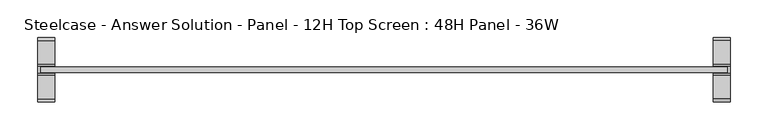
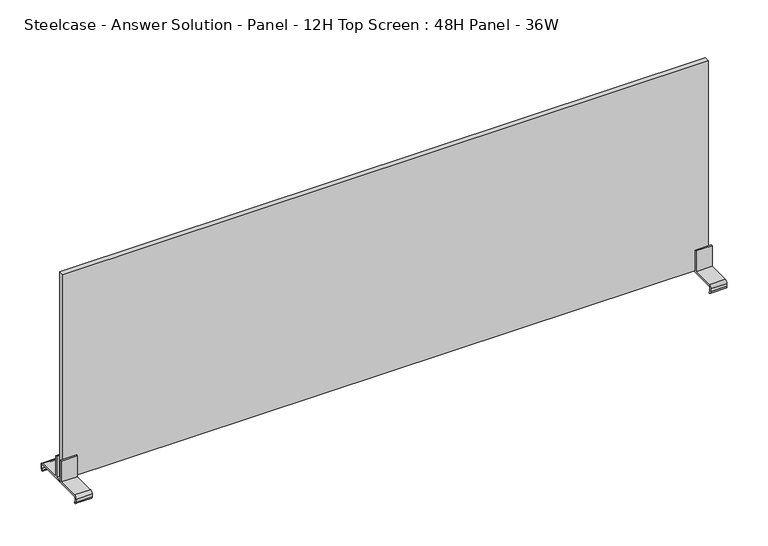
"""IFC4 building model written with IfcOpenShell, lengths in millimetres: furniture geometry, Steelcase - Answer Solution - Panel - 12H Top Screen : 48H Panel - 36W."""

from ifc_helpers import new_model, si_unit, point, frame, frame_2d, origin, place, context, project, spatial, polyline, circle_curve, trimmed, segment, composite_curve, outline, extrude, source, transform, mapped, element, save


def steelcase_answer_solution_panel_12h_top_screen_48h_panel_36w_2013941f(model_context):
    return source(origin(), model_context, "Body", "SweptSolid", [
        extrude(outline(polyline([(453.136, -3.683001), (-453.136, -3.683001), (-453.136, 3.683001), (453.136, 3.683001), (453.136, -3.683001)])), frame((0.0, 0.0, 1227.5819981), z_axis=(0.0, 0.0, 1.0), x_axis=(1.0, 0.0, 0.0)), (0.0, 0.0, 1.0), 304.8),
        extrude(outline(composite_curve([segment(trimmed(circle_curve(frame_2d((38.5445, 1223.645)), 1.905), [point((40.4495, 1223.645))], [point((38.5445, 1225.55))], True, "CARTESIAN"), True, "CONTINUOUS"), segment(polyline([(38.5445, 1225.55), (-38.5445, 1225.55)]), True, "CONTINUOUS"), segment(trimmed(circle_curve(frame_2d((-38.5445, 1223.645)), 1.905), [point((-38.5445, 1225.55))], [point((-40.4495, 1223.645))], True, "CARTESIAN"), True, "CONTINUOUS"), segment(polyline([(-40.4495, 1223.645), (-40.4495, 1219.0341187)]), True, "CONTINUOUS"), segment(trimmed(circle_curve(frame_2d((-38.5445, 1219.0341187)), 1.905), [point((-40.4495, 1219.0341187))], [point((-38.6743328, 1217.1335481))], True, "CARTESIAN"), True, "CONTINUOUS"), segment(polyline([(-38.6743328, 1217.1335481), (-39.2392449, 1215.5535566)]), True, "CONTINUOUS"), segment(trimmed(circle_curve(frame_2d((-38.5459934, 1219.4284569)), 3.9364261), [point((-39.2392449, 1215.5535566))], [point((-42.4824195, 1219.4284569))], False, "CARTESIAN"), True, "CONTINUOUS"), segment(polyline([(-42.4824195, 1219.4284569), (-42.4824195, 1223.6452288)]), True, "CONTINUOUS"), segment(trimmed(circle_curve(frame_2d((-38.5459934, 1223.6452288)), 3.9364261), [point((-42.4824195, 1223.6452288))], [point((-38.5459934, 1227.5816549))], False, "CARTESIAN"), True, "CONTINUOUS"), segment(polyline([(-38.5459934, 1227.5816549), (-6.7310004, 1227.5816549), (-6.7310004, 1258.5699952), (-4.699, 1258.5699952), (-4.699, 1227.5819952), (4.699, 1227.5819952), (4.699, 1258.5700048), (6.7310004, 1258.5700048), (6.7310004, 1227.5816549), (38.5459934, 1227.5816549)]), True, "CONTINUOUS"), segment(trimmed(circle_curve(frame_2d((38.5459934, 1223.6452288)), 3.9364261), [point((38.5459934, 1227.5816549))], [point((42.4824195, 1223.6452288))], False, "CARTESIAN"), True, "CONTINUOUS"), segment(polyline([(42.4824195, 1223.6452288), (42.4824195, 1219.4284569)]), True, "CONTINUOUS"), segment(trimmed(circle_curve(frame_2d((38.5459934, 1219.4284569)), 3.9364261), [point((42.4824195, 1219.4284569))], [point((39.6631716, 1215.6538889))], False, "CARTESIAN"), True, "CONTINUOUS"), segment(polyline([(39.6631716, 1215.6538889), (39.1055128, 1217.2135996)]), True, "CONTINUOUS"), segment(trimmed(circle_curve(frame_2d((38.5445, 1219.0341187)), 1.905), [point((39.1055128, 1217.2135996))], [point((40.4495, 1219.0341187))], True, "CARTESIAN"), True, "CONTINUOUS"), segment(polyline([(40.4495, 1219.0341187), (40.4495, 1223.645)]), True, "CONTINUOUS")], self_intersect=False)), frame((434.594, 0.0, 0.0), z_axis=(1.0, 0.0, 0.0), x_axis=(0.0, 1.0, 0.0)), (0.0, 0.0, 1.0), 22.606),
        extrude(outline(composite_curve([segment(trimmed(circle_curve(frame_2d((38.5445, 1223.645)), 1.905), [point((40.4495, 1223.645))], [point((38.5445, 1225.55))], True, "CARTESIAN"), True, "CONTINUOUS"), segment(polyline([(38.5445, 1225.55), (-38.5445, 1225.55)]), True, "CONTINUOUS"), segment(trimmed(circle_curve(frame_2d((-38.5445, 1223.645)), 1.905), [point((-38.5445, 1225.55))], [point((-40.4495, 1223.645))], True, "CARTESIAN"), True, "CONTINUOUS"), segment(polyline([(-40.4495, 1223.645), (-40.4495, 1219.0341187)]), True, "CONTINUOUS"), segment(trimmed(circle_curve(frame_2d((-38.5445, 1219.0341187)), 1.905), [point((-40.4495, 1219.0341187))], [point((-38.6743328, 1217.1335481))], True, "CARTESIAN"), True, "CONTINUOUS"), segment(polyline([(-38.6743328, 1217.1335481), (-39.2392449, 1215.5535566)]), True, "CONTINUOUS"), segment(trimmed(circle_curve(frame_2d((-38.5459934, 1219.4284569)), 3.9364261), [point((-39.2392449, 1215.5535566))], [point((-42.4824195, 1219.4284569))], False, "CARTESIAN"), True, "CONTINUOUS"), segment(polyline([(-42.4824195, 1219.4284569), (-42.4824195, 1223.6452288)]), True, "CONTINUOUS"), segment(trimmed(circle_curve(frame_2d((-38.5459934, 1223.6452288)), 3.9364261), [point((-42.4824195, 1223.6452288))], [point((-38.5459934, 1227.5816549))], False, "CARTESIAN"), True, "CONTINUOUS"), segment(polyline([(-38.5459934, 1227.5816549), (-6.7310004, 1227.5816549), (-6.7310004, 1258.5699952), (-4.699, 1258.5699952), (-4.699, 1227.5819952), (4.699, 1227.5819952), (4.699, 1258.5700048), (6.7310004, 1258.5700048), (6.7310004, 1227.5816549), (38.5459934, 1227.5816549)]), True, "CONTINUOUS"), segment(trimmed(circle_curve(frame_2d((38.5459934, 1223.6452288)), 3.9364261), [point((38.5459934, 1227.5816549))], [point((42.4824195, 1223.6452288))], False, "CARTESIAN"), True, "CONTINUOUS"), segment(polyline([(42.4824195, 1223.6452288), (42.4824195, 1219.4284569)]), True, "CONTINUOUS"), segment(trimmed(circle_curve(frame_2d((38.5459934, 1219.4284569)), 3.9364261), [point((42.4824195, 1219.4284569))], [point((39.6631716, 1215.6538889))], False, "CARTESIAN"), True, "CONTINUOUS"), segment(polyline([(39.6631716, 1215.6538889), (39.1055128, 1217.2135996)]), True, "CONTINUOUS"), segment(trimmed(circle_curve(frame_2d((38.5445, 1219.0341187)), 1.905), [point((39.1055128, 1217.2135996))], [point((40.4495, 1219.0341187))], True, "CARTESIAN"), True, "CONTINUOUS"), segment(polyline([(40.4495, 1219.0341187), (40.4495, 1223.645)]), True, "CONTINUOUS")], self_intersect=False)), frame((-457.2, 0.0, 0.0), z_axis=(1.0, 0.0, 0.0), x_axis=(0.0, 1.0, 0.0)), (0.0, 0.0, 1.0), 22.606),
    ])


if __name__ == "__main__":
    model = new_model("IFC4")
    model_context = context("Model", 3, world=origin())
    ifc_project = project(units=[si_unit("LENGTHUNIT", "METRE", prefix="MILLI")], contexts=[model_context])
    site = spatial("IfcSite", under=ifc_project)
    building = spatial("IfcBuilding", under=site)
    placement = place(None, origin())
    steelcase_answer_solution_panel_12h_top_screen_48h_panel_36w_shape = steelcase_answer_solution_panel_12h_top_screen_48h_panel_36w_2013941f(model_context)
    element("IfcFurniture", 1, ObjectType="Steelcase - Answer Solution - Panel - 12H Top Screen : 48H Panel - 36W", at=placement, inside=building, context=model_context, shape_type="MappedRepresentation", body=[
        mapped(steelcase_answer_solution_panel_12h_top_screen_48h_panel_36w_shape, transform((0.0, 0.0, 0.0), x_axis=(1.0, 0.0, 0.0), y_axis=(0.0, 1.0, 0.0), z_axis=(0.0, 0.0, 1.0))),
    ])
    save(model, "model.ifc")
